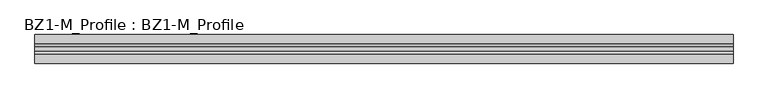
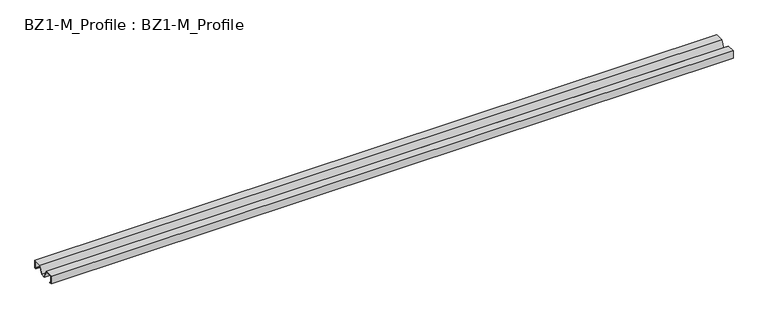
"""IFC4 building model written with IfcOpenShell, lengths in millimetres: beam geometry, BZ1-M_Profile : BZ1-M_Profile."""

from ifc_helpers import new_model, si_unit, frame, origin, place, context, project, spatial, polyline, outline, extrude, source, transform, mapped, element, save


def bz1_m_profile_bz1_m_profile_84ef72e7(model_context):
    return source(origin(), model_context, "Body", "SweptSolid", [
        extrude(outline(polyline([(45.0, 25.0), (45.0, 0.0), (39.0, 0.0), (39.0, 1.0), (44.0, 1.0), (44.0, 24.0), (18.3051526, 24.0), (8.117757, 0.0), (-8.117757, 0.0), (-18.3051526, 24.0), (-44.0, 24.0), (-44.0, 1.0), (-39.0, 1.0), (-39.0, 0.0), (-45.0, 0.0), (-45.0, 25.0), (-17.643267, 25.0), (-7.4558714, 1.0), (7.4558714, 1.0), (17.643267, 25.0), (45.0, 25.0)])), frame((-1097.5, 0.0, 0.0), z_axis=(1.0, 0.0, 0.0), x_axis=(0.0, 1.0, 0.0)), (0.0, 0.0, 1.0), 2195.0),
    ])


if __name__ == "__main__":
    model = new_model("IFC4")
    model_context = context("Model", 3, world=origin())
    ifc_project = project(units=[si_unit("LENGTHUNIT", "METRE", prefix="MILLI")], contexts=[model_context])
    site = spatial("IfcSite", under=ifc_project)
    building = spatial("IfcBuilding", under=site)
    placement = place(None, origin())
    bz1_m_profile_bz1_m_profile_shape = bz1_m_profile_bz1_m_profile_84ef72e7(model_context)
    element("IfcBeam", 1, ObjectType="BZ1-M_Profile : BZ1-M_Profile", at=placement, inside=building, context=model_context, shape_type="MappedRepresentation", body=[
        mapped(bz1_m_profile_bz1_m_profile_shape, transform((0.0, 0.0, 0.0), x_axis=(1.0, 0.0, 0.0), y_axis=(0.0, 1.0, 0.0), z_axis=(0.0, 0.0, 1.0))),
    ])
    save(model, "model.ifc")
